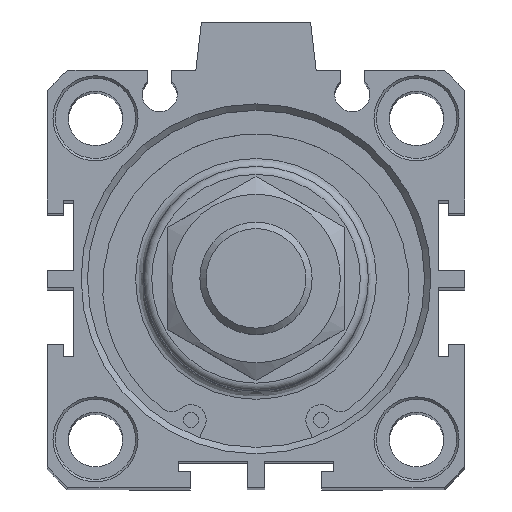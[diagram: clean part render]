
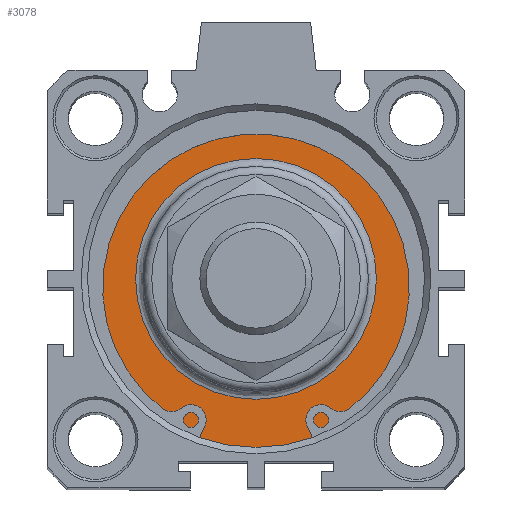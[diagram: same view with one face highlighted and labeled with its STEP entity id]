
A CAD part, top view. The second image highlights one B-rep face of the part: STEP entity #3078.
In plain terms, the highlighted planar face has unit normal (0, 0, 1).
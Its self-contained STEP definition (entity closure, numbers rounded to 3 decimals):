
#3027=CARTESIAN_POINT('',(-1.555,16.077,172.4));
#3028=VERTEX_POINT('',#3027);
#3029=CARTESIAN_POINT('',(-1.555,1.077,172.4));
#3030=DIRECTION('',(0.0,0.0,1.0));
#3031=DIRECTION('',(0.0,-1.0,0.0));
#3032=AXIS2_PLACEMENT_3D('',#3029,#3030,#3031);
#3033=CIRCLE('',#3032,15.);
#3034=EDGE_CURVE('',#3028,#3028,#3033,.T.);
#3059=CARTESIAN_POINT('',(-1.555,18.577,172.4));
#3060=DIRECTION('',(0.0,0.0,1.0));
#3061=DIRECTION('',(1.0,0.0,0.0));
#3062=AXIS2_PLACEMENT_3D('',#3059,#3060,#3061);
#3063=PLANE('',#3062);
#3064=CARTESIAN_POINT('',(-1.555,22.077,172.4));
#3065=VERTEX_POINT('',#3064);
#3066=CARTESIAN_POINT('',(-1.555,1.077,172.4));
#3067=DIRECTION('',(0.0,0.0,-1.0));
#3068=DIRECTION('',(0.0,1.0,0.0));
#3069=AXIS2_PLACEMENT_3D('',#3066,#3067,#3068);
#3070=CIRCLE('',#3069,21.);
#3071=EDGE_CURVE('',#3065,#3065,#3070,.T.);
#3072=ORIENTED_EDGE('',*,*,#3071,.F.);
#3073=EDGE_LOOP('',(#3072));
#3074=FACE_OUTER_BOUND('',#3073,.T.);
#3075=ORIENTED_EDGE('',*,*,#3034,.F.);
#3076=EDGE_LOOP('',(#3075));
#3077=FACE_BOUND('',#3076,.T.);
#3078=ADVANCED_FACE('',(#3074,#3077),#3063,.T.);
